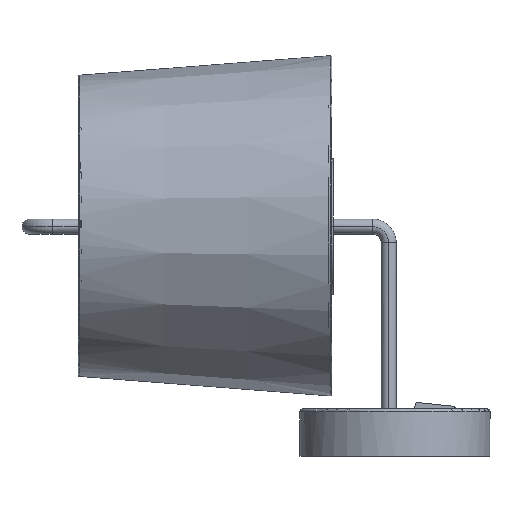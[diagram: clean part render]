
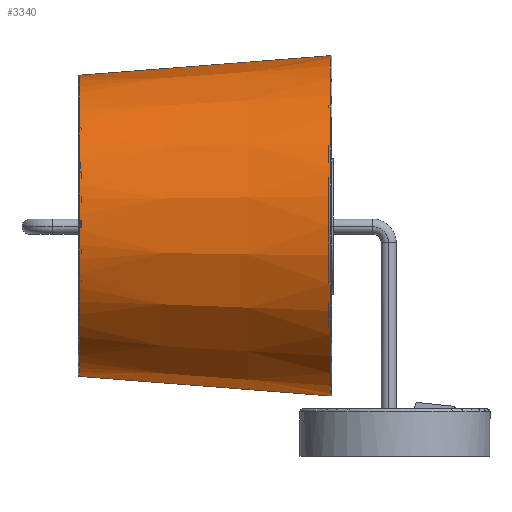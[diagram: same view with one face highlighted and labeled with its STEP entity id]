
A CAD part, left-side view. The second image highlights one B-rep face of the part: STEP entity #3340.
In plain terms, the highlighted conical face has half-angle 4.466 degrees and reference radius 106.184 mm.
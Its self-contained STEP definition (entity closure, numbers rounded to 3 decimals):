
#35=CONICAL_SURFACE('',#3691,106.184,0.078);
#157=B_SPLINE_CURVE_WITH_KNOTS('',3,(#7467,#7468,#7469,#7470,#7471,#7472,
#7473,#7474,#7475,#7476,#7477,#7478),.UNSPECIFIED.,.F.,.F.,(4,1,1,1,1,1,
1,1,1,4),(0.,0.111,0.222,0.333,0.444,
0.556,0.667,0.778,0.889,
1.),.UNSPECIFIED.);
#489=FACE_OUTER_BOUND('',#717,.T.);
#717=EDGE_LOOP('',(#2922,#2923,#2924,#2925));
#873=CIRCLE('',#3692,107.419);
#1104=LINE('',#7481,#1336);
#1105=LINE('',#7484,#1337);
#1336=VECTOR('',#4551,304.8);
#1337=VECTOR('',#4554,304.8);
#1600=VERTEX_POINT('',#7066);
#1601=VERTEX_POINT('',#7260);
#1602=VERTEX_POINT('',#7480);
#1603=VERTEX_POINT('',#7482);
#2045=EDGE_CURVE('',#1600,#1601,#157,.T.);
#2046=EDGE_CURVE('',#1602,#1600,#1104,.T.);
#2048=EDGE_CURVE('',#1601,#1603,#1105,.T.);
#2049=EDGE_CURVE('',#1602,#1603,#873,.T.);
#2922=ORIENTED_EDGE('',*,*,#2045,.T.);
#2923=ORIENTED_EDGE('',*,*,#2048,.T.);
#2924=ORIENTED_EDGE('',*,*,#2049,.F.);
#2925=ORIENTED_EDGE('',*,*,#2046,.T.);
#3340=ADVANCED_FACE('',(#489),#35,.T.);
#3691=AXIS2_PLACEMENT_3D('',#7485,#4555,#4556);
#3692=AXIS2_PLACEMENT_3D('',#7486,#4557,#4558);
#4551=DIRECTION('',(0.,0.078,0.997));
#4554=DIRECTION('',(0.,0.078,-0.997));
#4555=DIRECTION('center_axis',(0.,0.,
-1.));
#4556=DIRECTION('ref_axis',(-0.588,0.809,0.));
#4557=DIRECTION('center_axis',(0.,0.,
-1.));
#4558=DIRECTION('ref_axis',(-0.588,0.809,0.));
#7066=CARTESIAN_POINT('',(0.,-95.072,159.083));
#7260=CARTESIAN_POINT('',(0.,95.072,159.083));
#7467=CARTESIAN_POINT('Ctrl Pts',(0.,-95.072,
159.083));
#7468=CARTESIAN_POINT('Ctrl Pts',(-11.09,-95.151,159.083));
#7469=CARTESIAN_POINT('Ctrl Pts',(-33.17,-91.134,159.083));
#7470=CARTESIAN_POINT('Ctrl Pts',(-62.368,-74.333,159.083));
#7471=CARTESIAN_POINT('Ctrl Pts',(-84.023,-48.508,159.083));
#7472=CARTESIAN_POINT('Ctrl Pts',(-95.548,-16.849,159.083));
#7473=CARTESIAN_POINT('Ctrl Pts',(-95.548,16.849,159.083));
#7474=CARTESIAN_POINT('Ctrl Pts',(-84.023,48.508,159.083));
#7475=CARTESIAN_POINT('Ctrl Pts',(-62.368,74.333,159.083));
#7476=CARTESIAN_POINT('Ctrl Pts',(-33.17,91.134,159.083));
#7477=CARTESIAN_POINT('Ctrl Pts',(-11.09,95.151,159.083));
#7478=CARTESIAN_POINT('Ctrl Pts',(0.,95.072,
159.083));
#7480=CARTESIAN_POINT('',(0.,-107.419,1.));
#7481=CARTESIAN_POINT('',(0.,-107.419,1.));
#7482=CARTESIAN_POINT('',(0.,107.419,1.));
#7484=CARTESIAN_POINT('',(0.,95.072,159.083));
#7485=CARTESIAN_POINT('Origin',(0.,0.,
16.809));
#7486=CARTESIAN_POINT('Origin',(0.,0.,
1.));
